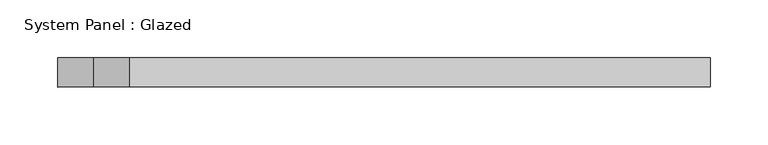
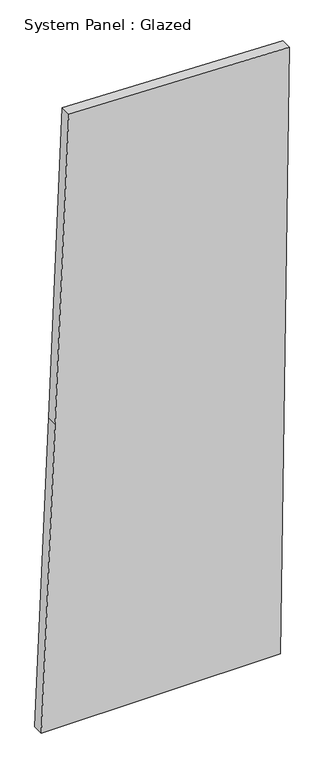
"""IFC4 building model written with IfcOpenShell, lengths in millimetres: plate geometry, System Panel : Glazed."""

import ifcopenshell
import ifcopenshell.guid

model = None  # the IFC model being written
_history = None  # IfcOwnerHistory: only IFC2X3 demands one
_inside = {}  # id of a spatial element -> (the spatial element, [elements in it])
_under = {}  # id of a project, library or spatial element -> (it, [spatial elements below it])
_declared = {}  # id of a project -> (the project, [libraries it declares])
_typed = {}  # id of a type object -> (the type object, [elements of that type])
_made_of = {}  # id of a material, layer set ... -> (it, [elements and type objects made of it])


def new_model(schema):
    """Start an empty IFC model of exactly this schema.

    Asked for "IFC4X3", IfcOpenShell would pick the latest addendum, in which some entities
    have other attributes; the version numbers below select the first issue.
    IFC2X3 requires an IfcOwnerHistory on every rooted entity: one is made here for all.
    """
    global model, _history
    if schema == "IFC4X3":
        model = ifcopenshell.file(schema_version=(4, 3, 0, 0))
    else:
        model = ifcopenshell.file(schema=schema)
    _inside.clear()
    _under.clear()
    _declared.clear()
    _typed.clear()
    _made_of.clear()
    _history = None
    if model.schema == "IFC2X3":
        org = make("IfcOrganization", Name="unknown")
        user = make(
            "IfcPersonAndOrganization",
            ThePerson=make("IfcPerson", FamilyName="unknown"),
            TheOrganization=org,
        )
        app = make(
            "IfcApplication",
            ApplicationDeveloper=org,
            Version="unknown",
            ApplicationFullName="unknown",
            ApplicationIdentifier="unknown",
        )
        _history = make(
            "IfcOwnerHistory",
            OwningUser=user,
            OwningApplication=app,
            ChangeAction="ADDED",
            CreationDate=0,
        )
    return model


def make(cls, **values):
    """One entity of the class cls with the attributes given. An attribute that is None is left unset."""
    return model.create_entity(
        cls, **{name: value for name, value in values.items() if value is not None}
    )


def rooted(cls, **values):
    """An entity with a GlobalId (a new one), such as an element, a storey or a relation."""
    return make(cls, GlobalId=ifcopenshell.guid.new(), OwnerHistory=_history, **values)


def si_unit(unit_type, name, prefix=None):
    """IfcSIUnit, for example si_unit("LENGTHUNIT", "METRE", prefix="MILLI")."""
    return make("IfcSIUnit", UnitType=unit_type, Prefix=prefix, Name=name)


def assignment(units):
    """IfcUnitAssignment: the units of a project."""
    return None if units is None else make("IfcUnitAssignment", Units=units)


def point(xyz):
    """IfcCartesianPoint."""
    return None if xyz is None else make("IfcCartesianPoint", Coordinates=xyz)


def direction(xyz):
    """IfcDirection."""
    return None if xyz is None else make("IfcDirection", DirectionRatios=xyz)


def frame(location, z_axis=None, x_axis=None):
    """IfcAxis2Placement3D, a coordinate frame: its origin and axes. An axis left out is left unset."""
    return make(
        "IfcAxis2Placement3D",
        Location=point(location),
        Axis=direction(z_axis),
        RefDirection=direction(x_axis),
    )


def origin():
    """The frame at (0, 0, 0) with its axes left unset."""
    return frame((0.0, 0.0, 0.0))


def place(relative_to, where):
    """IfcLocalPlacement: puts the frame where relative to a parent placement (None: the world)."""
    return make(
        "IfcLocalPlacement", PlacementRelTo=relative_to, RelativePlacement=where
    )


def context(
    kind, dimensions, precision=None, world=None, true_north=None, identifier=None
):
    """IfcGeometricRepresentationContext, for example the 3D "Model" context."""
    return make(
        "IfcGeometricRepresentationContext",
        ContextIdentifier=identifier,
        ContextType=kind,
        CoordinateSpaceDimension=dimensions,
        Precision=precision,
        WorldCoordinateSystem=world,
        TrueNorth=true_north,
    )


def project(units=None, contexts=None):
    """IfcProject with its units and contexts."""
    return rooted(
        "IfcProject",
        Name="project",
        RepresentationContexts=contexts,
        UnitsInContext=assignment(units),
    )


def spatial(cls, under=None, at=None, **own):
    """A site, building, storey or space (cls), placed at a placement, below another one or the project."""
    s = rooted(cls, ObjectPlacement=at, **own)
    if under is not None:
        _under.setdefault(under.id(), (under, []))[1].append(s)
    return s


def polyline(points):
    """IfcPolyline through the points."""
    return make("IfcPolyline", Points=[point(p) for p in points])


def outline(outer, holes=None, kind="AREA"):
    """IfcArbitraryClosedProfileDef: a profile drawn as a closed curve; with holes, ...WithVoids."""
    if holes is None:
        return make("IfcArbitraryClosedProfileDef", ProfileType=kind, OuterCurve=outer)
    return make(
        "IfcArbitraryProfileDefWithVoids",
        ProfileType=kind,
        OuterCurve=outer,
        InnerCurves=holes,
    )


def extrude(swept, where, along, depth):
    """IfcExtrudedAreaSolid: the profile swept, set in the frame where, extruded along a direction by depth."""
    return make(
        "IfcExtrudedAreaSolid",
        SweptArea=swept,
        Position=where,
        ExtrudedDirection=direction(along),
        Depth=depth,
    )


def shape(context_of_items, identifier, shape_type, items):
    """IfcShapeRepresentation: the items that make up one representation, for example the "Body"."""
    return make(
        "IfcShapeRepresentation",
        ContextOfItems=context_of_items,
        RepresentationIdentifier=identifier,
        RepresentationType=shape_type,
        Items=items,
    )


def source(mapping_origin, context_of_items, identifier, shape_type, items):
    """IfcRepresentationMap: a shape defined once, which mapped items show again and again."""
    return make(
        "IfcRepresentationMap",
        MappingOrigin=mapping_origin,
        MappedRepresentation=shape(context_of_items, identifier, shape_type, items),
    )


def transform(
    local_origin,
    x_axis=None,
    y_axis=None,
    z_axis=None,
    scale=None,
    scale2=None,
    scale3=None,
    uniform=True,
):
    """IfcCartesianTransformationOperator3D, or its non-uniform kind. x_axis, y_axis, z_axis: its Axis1, 2, 3."""
    if uniform:
        return make(
            "IfcCartesianTransformationOperator3D",
            Axis1=direction(x_axis),
            Axis2=direction(y_axis),
            LocalOrigin=point(local_origin),
            Scale=scale,
            Axis3=direction(z_axis),
        )
    return make(
        "IfcCartesianTransformationOperator3DnonUniform",
        Axis1=direction(x_axis),
        Axis2=direction(y_axis),
        LocalOrigin=point(local_origin),
        Scale=scale,
        Axis3=direction(z_axis),
        Scale2=scale2,
        Scale3=scale3,
    )


def mapped(mapping_source, mapping_target):
    """IfcMappedItem: shows the shape of a source again, moved by a transform."""
    return make(
        "IfcMappedItem", MappingSource=mapping_source, MappingTarget=mapping_target
    )


def made_of(thing, what):
    """Note that an element or type object is made of a material, layer set ...; save() writes the relation."""
    if what is not None:
        _made_of.setdefault(what.id(), (what, []))[1].append(thing)
    return thing


def element(
    cls,
    number,
    at=None,
    inside=None,
    cuts=None,
    type_object=None,
    material=None,
    context=None,
    identifier="Body",
    shape_type=None,
    held_by="IfcProductDefinitionShape",
    body=None,
    shapes=None,
    **own,
):
    """One element of the class cls, such as IfcWall. Its Tag is "e" and its number.

    at: its placement. inside: the storey or other place that contains it. cuts: it is an
    opening in that element (IfcRelVoidsElement). A single representation is given by context,
    identifier, shape_type and body (its items); several are given by shapes. held_by: the class
    of the entity that holds the representations. save() writes the other relations.
    """
    e = rooted(cls, Tag="e%d" % number, ObjectPlacement=at, **own)
    if body is not None:
        shapes = [shape(context, identifier, shape_type, body)]
    if shapes is not None:
        e.Representation = make(held_by, Representations=shapes)
    if inside is not None:
        _inside.setdefault(inside.id(), (inside, []))[1].append(e)
    if cuts is not None:
        rooted(
            "IfcRelVoidsElement", RelatingBuildingElement=cuts, RelatedOpeningElement=e
        )
    if type_object is not None:
        _typed.setdefault(type_object.id(), (type_object, []))[1].append(e)
    return made_of(e, material)


def aggregate(whole, parts):
    """IfcRelAggregates: a whole, such as a stair, and the parts it consists of."""
    return rooted("IfcRelAggregates", RelatingObject=whole, RelatedObjects=parts)


def save(model, path):
    """Write the relations noted so far, then the file.

    IfcRelAggregates (storeys below a building ...), IfcRelContainedInSpatialStructure (elements
    in a storey), IfcRelDefinesByType, IfcRelAssociatesMaterial and IfcRelDeclares: one each for
    every whole, place, type object, material and project.
    """
    for whole, parts in _under.values():
        aggregate(whole, parts)
    for where, things in _inside.values():
        rooted(
            "IfcRelContainedInSpatialStructure",
            RelatedElements=things,
            RelatingStructure=where,
        )
    for kind, things in _typed.values():
        rooted("IfcRelDefinesByType", RelatedObjects=things, RelatingType=kind)
    for what, things in _made_of.values():
        rooted("IfcRelAssociatesMaterial", RelatedObjects=things, RelatingMaterial=what)
    for by, libraries in _declared.values():
        rooted("IfcRelDeclares", RelatingContext=by, RelatedDefinitions=libraries)
    model.write(path)


def system_panel_glazed_592c273d(model_context):
    return source(origin(), model_context, "Body", "SweptSolid", [
        extrude(outline(polyline([(0.0, -283.4453425), (0.0, 263.6177126), (728.8593491, 273.5310922), (1457.7827093, 283.4453425), (1472.0089303, -220.612968), (735.0855827, -252.0683775), (0.0, -283.4453425)])), frame((0.0, -44.45, 0.0), z_axis=(0.0, 1.0, 0.0), x_axis=(0.0, 0.0, 1.0)), (0.0, 0.0, 1.0), 25.4),
    ])


if __name__ == "__main__":
    model = new_model("IFC4")
    model_context = context("Model", 3, world=origin())
    ifc_project = project(units=[si_unit("LENGTHUNIT", "METRE", prefix="MILLI")], contexts=[model_context])
    site = spatial("IfcSite", under=ifc_project)
    building = spatial("IfcBuilding", under=site)
    placement = place(None, origin())
    system_panel_glazed_shape = system_panel_glazed_592c273d(model_context)
    element("IfcPlate", 1, ObjectType="System Panel : Glazed", at=placement, inside=building, context=model_context, shape_type="MappedRepresentation", body=[
        mapped(system_panel_glazed_shape, transform((0.0, 0.0, 0.0), x_axis=(1.0, 0.0, 0.0), y_axis=(0.0, 1.0, 0.0), z_axis=(0.0, 0.0, 1.0))),
    ])
    save(model, "model.ifc")
